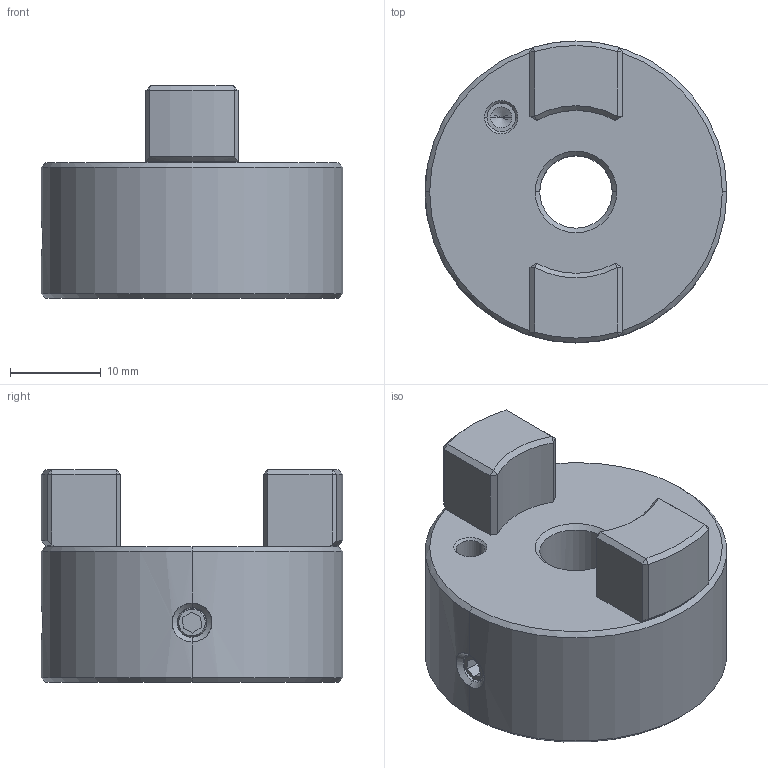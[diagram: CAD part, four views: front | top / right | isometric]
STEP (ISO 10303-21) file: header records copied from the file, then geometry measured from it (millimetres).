
FILE_DESCRIPTION((''),'2;1');
FILE_NAME('MOST33-8-A','2016-09-09T',('SYSTEM'),(''),'PRO/ENGINEER BY PARAMETRIC TECHNOLOGY CORPORATION, 2015110','PRO/ENGINEER BY PARAMETRIC TECHNOLOGY CORPORATION, 2015110','');
FILE_SCHEMA(('AUTOMOTIVE_DESIGN { 1 0 10303 214 1 1 1 1 }'));
Length unit declared in the file: inch
Products named in the file (1): MOST33-8-A
Bounding box: 33.34 x 33.34 x 23.5 mm (x, y, z)
Volume: 172.1 mm3; surface area: 4774.6 mm2
Topology: 2 solids, 3 shells, 97 faces, 227 edges, 136 vertices
Faces by surface type: plane 47, cone 26, cylinder 20, bspline 4
Entity records: 3849 total; most frequent: CARTESIAN_POINT 949, DIRECTION 440, ORIENTED_EDGE 435, EDGE_CURVE 225, AXIS2_PLACEMENT_3D 152, VECTOR 136, LINE 136, VERTEX_POINT 136
